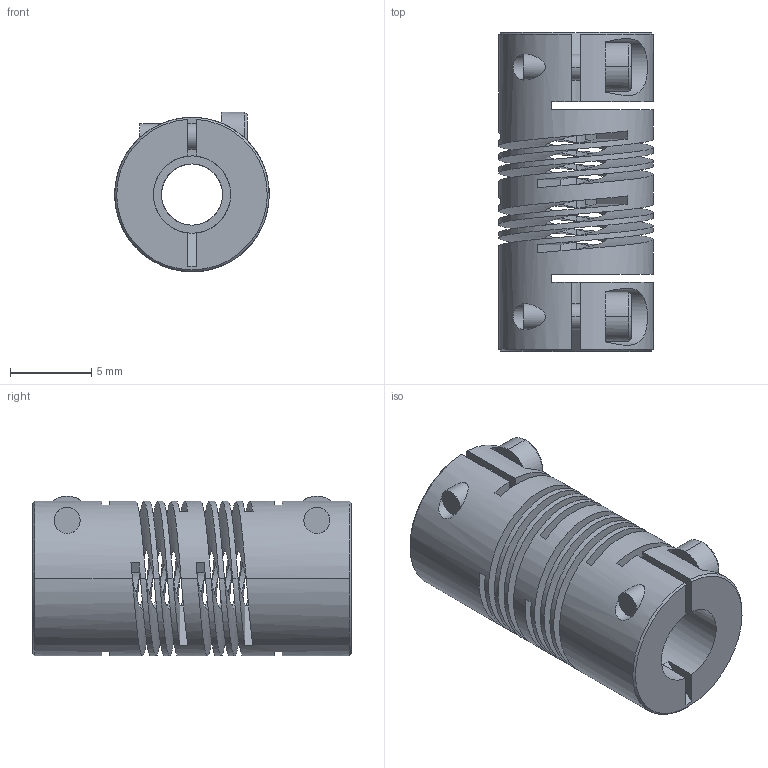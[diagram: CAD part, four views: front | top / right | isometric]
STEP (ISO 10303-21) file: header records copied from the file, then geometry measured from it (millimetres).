
FILE_DESCRIPTION((''),'2;1');
FILE_NAME('707_09','2006-12-06T',('Gary Melling'),(''),'PRO/ENGINEER BY PARAMETRIC TECHNOLOGY CORPORATION, 2006240','PRO/ENGINEER BY PARAMETRIC TECHNOLOGY CORPORATION, 2006240','');
FILE_SCHEMA(('CONFIG_CONTROL_DESIGN'));
Length unit declared in the file: millimetre
Products named in the file (1): 707_09
Bounding box: 9.5 x 19.6 x 9.81 mm (x, y, z)
Volume: 837.9 mm3; surface area: 1906.9 mm2
Topology: 1 solids, 1 shells, 116 faces, 344 edges, 224 vertices
Faces by surface type: plane 58, cylinder 40, bspline 12, cone 6
Entity records: 5908 total; most frequent: CARTESIAN_POINT 2892, ORIENTED_EDGE 688, DIRECTION 526, EDGE_CURVE 344, VERTEX_POINT 224, VECTOR 186, LINE 186, AXIS2_PLACEMENT_3D 170
